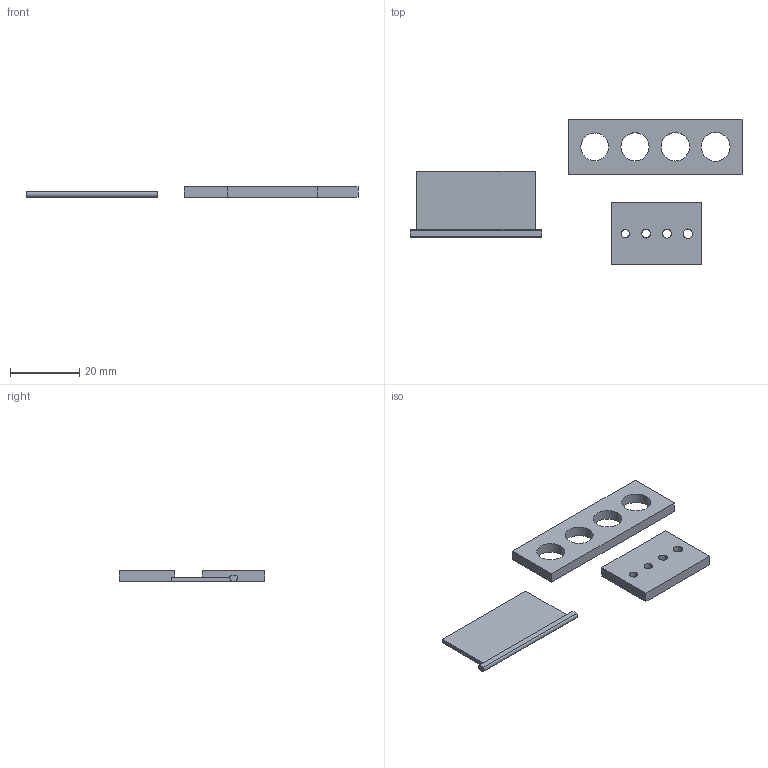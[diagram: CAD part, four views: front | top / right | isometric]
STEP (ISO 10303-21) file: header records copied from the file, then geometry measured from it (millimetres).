
FILE_DESCRIPTION(('Open CASCADE Model'),'2;1');
FILE_NAME('coupons','2000-01-01T00:00:00',('Author'),('Open CASCADE'), 'Open CASCADE STEP processor 7.9','cadgen','Unknown');
FILE_SCHEMA(('AUTOMOTIVE_DESIGN { 1 0 10303 214 1 1 1 1 }'));
Length unit declared in the file: millimetre
Products named in the file (4): coupons; CP_numbered_flap; CP_trunnion_bore_ladder; CP_8mm_shaft_bore_ladder
Assembly tree (3 placements, depth 2):
  coupons
    CP_numbered_flap
    CP_trunnion_bore_ladder
    CP_8mm_shaft_bore_ladder
Bounding box: 95.6 x 42 x 3 mm (x, y, z)
Volume: 3936.6 mm3; surface area: 4603.6 mm2
Topology: 3 solids, 3 shells, 30 faces, 72 edges, 48 vertices
Faces by surface type: plane 20, cylinder 10
Full cylindrical faces by diameter (mm): 2.4 x1, 2.5 x1, 2.6 x1, 2.7 x1, 8 x1, 8.1 x1, 8.2 x1, 8.3 x1
Entity records: 1957 total; most frequent: CARTESIAN_POINT 319, DIRECTION 290, LINE 157, VECTOR 157, ORIENTED_EDGE 144, PCURVE 144, DEFINITIONAL_REPRESENTATION 144, EDGE_CURVE 72
